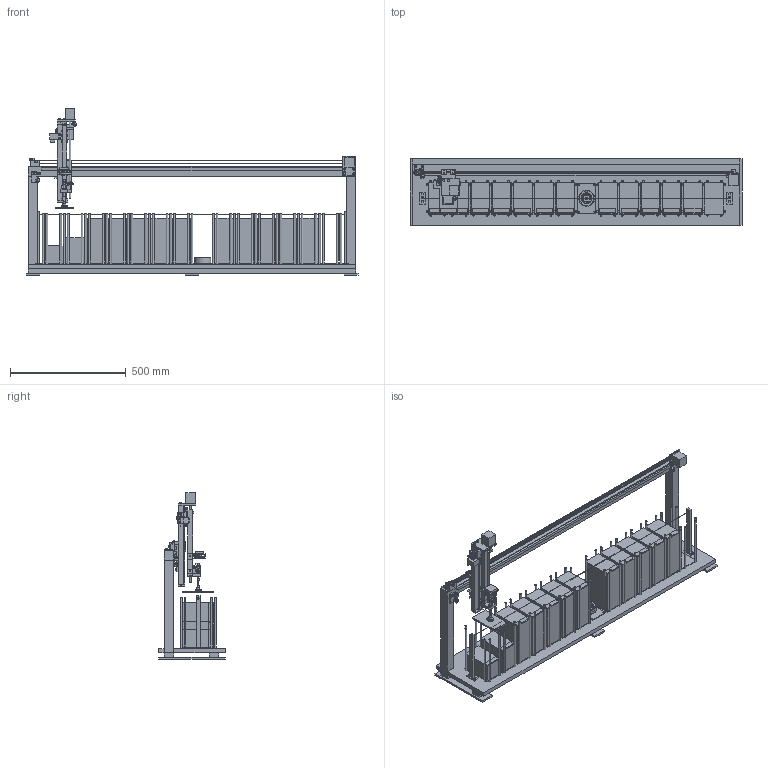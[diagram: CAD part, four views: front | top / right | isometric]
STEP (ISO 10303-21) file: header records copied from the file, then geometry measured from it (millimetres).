
FILE_DESCRIPTION(('Open CASCADE Model'),'2;1');
FILE_NAME('Open CASCADE Shape Model','2026-10-27T22:14:25',('Author'),( 'Open CASCADE'),'Open CASCADE STEP processor 7.9','Open CASCADE 7.9' ,'Unknown');
FILE_SCHEMA(('AUTOMOTIVE_DESIGN { 1 0 10303 214 1 1 1 1 }'));
Length unit declared in the file: millimetre
Products named in the file (244): slabrail_carry; base_rail_0; base_rail_1; upright_L; upright_R; foot_L; foot_M; foot_R; x_beam; x_rail; bed_plywood; x_motor; x_motor_mount; x_idler_mount; x_idler_slider; x_bumper_L; x_pulley; x_idler; x_belt_lo; x_belt_hi; fx_motor_m3_-16-16; fx_motor_m3_-16+16; fx_motor_m3_+16-16; fx_motor_m3_+16+16; fx_motor_m5_-23-30; fx_motor_m5_+18-30; fx_motor_m5_-22-10; fx_motor_m5_+18-10; fx_idler_m5_-20; fx_idler_m5_+6; fx_idler_tension; fx_idler_axle; x_switch_mount; x_home_switch; fx_xsw_m2_5; fx_xsw_nut_5; fx_xsw_m2_15; fx_xsw_nut_15; fx_xsw_m5_-48; fx_xsw_m5_-37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
Assembly tree (243 placements, depth 2):
  slabrail_carry
    base_rail_0
    base_rail_1
    upright_L
    upright_R
    foot_L
    foot_M
    foot_R
    x_beam
    x_rail
    bed_plywood
    x_motor
    x_motor_mount
    x_idler_mount
    x_idler_slider
    x_bumper_L
    x_pulley
    x_idler
    x_belt_lo
    x_belt_hi
    fx_motor_m3_-16-16
    fx_motor_m3_-16+16
    fx_motor_m3_+16-16
    fx_motor_m3_+16+16
    fx_motor_m5_-23-30
    fx_motor_m5_+18-30
    fx_motor_m5_-22-10
    fx_motor_m5_+18-10
    fx_idler_m5_-20
    fx_idler_m5_+6
    fx_idler_tension
    fx_idler_axle
    x_switch_mount
    x_home_switch
    fx_xsw_m2_5
    fx_xsw_nut_5
    fx_xsw_m2_15
    fx_xsw_nut_15
    fx_xsw_m5_-48
    fx_xsw_m5_-37
    pad_0
    pad_1
    pad_2
    pad_3
    pad_4
    pad_5
    pad_6
    pad_7
    pad_8
    pad_9
    pad_10
    pad_11
    pad_12
    rod_00
    rod_01
    rod_02
    rod_03
    rod_04
    rod_05
    rod_06
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Bounding box: 1436 x 289.5 x 720 mm (x, y, z)
Volume: 42984742.2 mm3; surface area: 4624641.6 mm2
Topology: 245 solids, 245 shells, 1693 faces, 3344 edges, 2227 vertices
Faces by surface type: plane 1361, cylinder 331, cone 1
Full cylindrical faces by diameter (mm): 1.2 x1, 1.8 x4, 2 x2, 2.35 x4, 2.5 x6, 3 x4, 3.2 x4, 3.4 x33, 3.8 x4, 4.5 x5, 4.6 x4, 5.2 x1, 5.3 x2, 5.5 x55, 6 x1, 6.2 x1, 6.4 x4, 6.5 x14, 7 x6, 7.2 x1, 8 x84, 8.083 x1, 8.5 x14, 9 x1, 9.238 x2, 9.5 x12, 10 x7, 10.4 x1, 10.5 x1, 14 x2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
Entity records: 93822 total; most frequent: CARTESIAN_POINT 15225, DIRECTION 14466, LINE 8552, VECTOR 8552, ORIENTED_EDGE 6688, PCURVE 6688, DEFINITIONAL_REPRESENTATION 6688, EDGE_CURVE 3344
